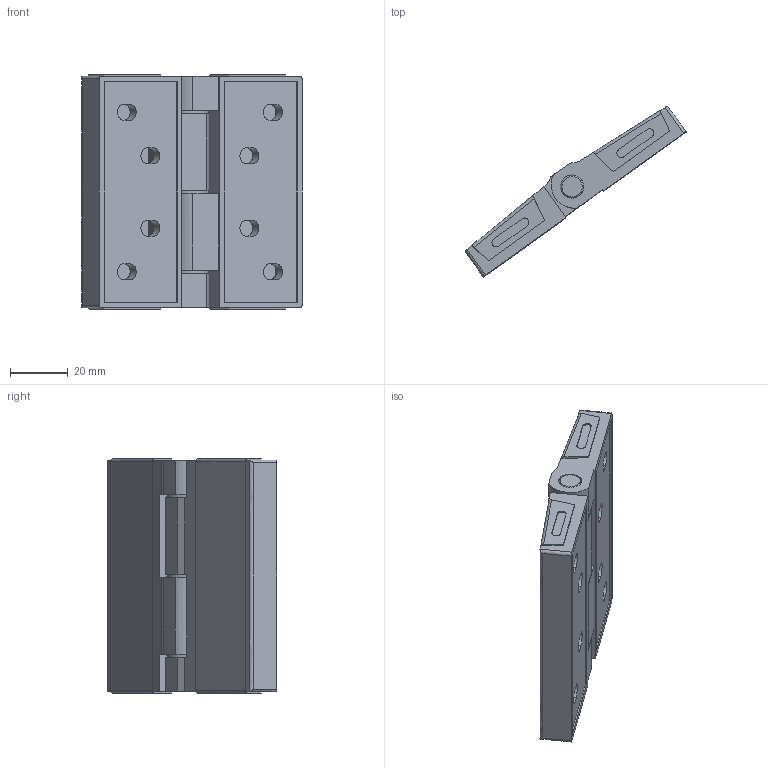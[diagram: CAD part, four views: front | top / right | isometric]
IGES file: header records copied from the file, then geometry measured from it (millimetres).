
Global section: file name: DR_H-CV80-86; native system: Autodesk Inventor 2015; preprocessor: unknown; author: CH.J; date: 20170824.112821; units: millimetre
Bounding box: 75.99 x 58.63 x 81 mm (x, y, z)
Volume: 51442.2 mm3; surface area: 38567.2 mm2
Topology: 8 solids, 8 shells, 283 faces, 707 edges, 450 vertices
Faces by surface type: bspline 283
